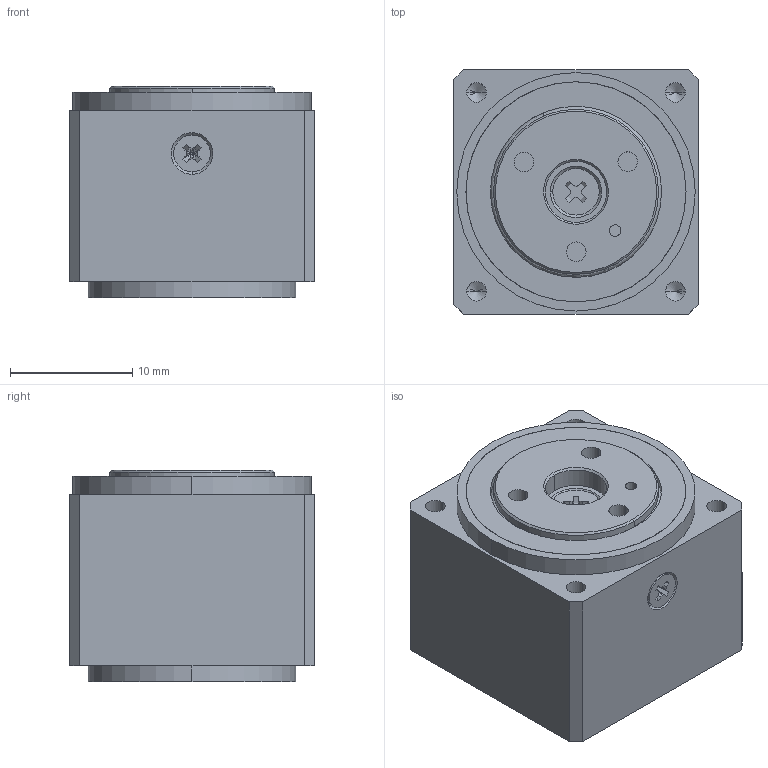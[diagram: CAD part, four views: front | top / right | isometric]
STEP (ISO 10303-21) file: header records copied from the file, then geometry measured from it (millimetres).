
FILE_DESCRIPTION (( 'STEP AP214' ), '1' );
FILE_NAME ('CSF-05-xxx-1U-D.STEP', '2022-05-16T07:30:03', ( 'PC' ), ( 'Microsoft' ), 'SwSTEP 2.0', 'SolidWorks 2016', '' );
FILE_SCHEMA (( 'AUTOMOTIVE_DESIGN' ));
Length unit declared in the file: millimetre
Products named in the file (12): CSF-05-交叉轴承内圈_1; CSF05-1U-01_蕼偞; CSF-05-xxx-1U-D; 十字槽沉头螺钉 M1.6×3_預設; CSF-05-1U-CC疏楷汜ん_蕼偞; 13.08x9.8x2.08柔性轴承_預設; CSF-05-1U-CC芧謫_蕼偞; 十字槽沉头螺钉 M2×5_預設; CSF-05-1U-03_蕼偞; CSF-05蝠脫粣創_蕼偞; 外径14x0.8  O型圈_預設; CSF-05-交叉轴承外圈_1
Assembly tree (11 placements, depth 3):
  CSF-05-xxx-1U-D
    CSF05-1U-01_蕼偞
    CSF-05蝠脫粣創_蕼偞
      CSF-05-交叉轴承内圈_1
      CSF-05-交叉轴承外圈_1
      外径14x0.8  O型圈_預設
    CSF-05-1U-03_蕼偞
    十字槽沉头螺钉 M2×5_預設
    CSF-05-1U-CC疏楷汜ん_蕼偞
      CSF-05-1U-CC芧謫_蕼偞
      13.08x9.8x2.08柔性轴承_預設
    十字槽沉头螺钉 M1.6×3_預設
Bounding box: 20 x 20 x 17.3 mm (x, y, z)
Volume: 4904.1 mm3; surface area: 6540.6 mm2
Topology: 9 solids, 9 shells, 305 faces, 676 edges, 398 vertices
Faces by surface type: plane 117, cylinder 110, cone 56, bspline 18, torus 4
Entity records: 12711 total; most frequent: CARTESIAN_POINT 2143, DIRECTION 1510, ORIENTED_EDGE 1320, EDGE_CURVE 660, AXIS2_PLACEMENT_3D 585, VERTEX_POINT 398, EDGE_LOOP 354, LINE 340
